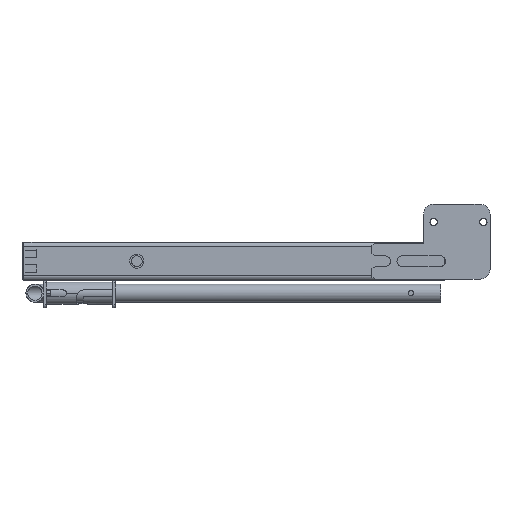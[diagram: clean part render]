
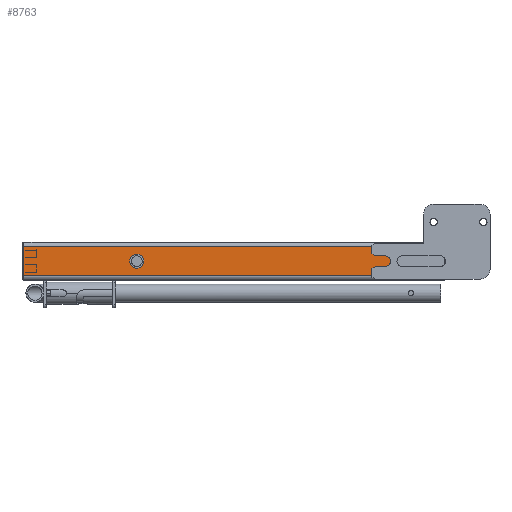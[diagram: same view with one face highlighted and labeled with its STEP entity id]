
A CAD part, left-side view. The second image highlights one B-rep face of the part: STEP entity #8763.
In plain terms, the highlighted planar face has unit normal (-1, 0, 0).
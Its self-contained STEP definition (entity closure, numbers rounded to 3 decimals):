
#6922=DIRECTION('',(0.,1.,0.));
#6923=VECTOR('',#6922,524.5);
#6924=CARTESIAN_POINT('',(-175.,109.5,-22.058));
#6925=LINE('',#6924,#6923);
#7006=DIRECTION('',(0.,0.,1.));
#7007=VECTOR('',#7006,10.921);
#7008=CARTESIAN_POINT('',(-175.,109.5,-22.058));
#7009=LINE('',#7008,#7007);
#7010=DIRECTION('',(0.,0.,-1.));
#7011=VECTOR('',#7010,10.921);
#7012=CARTESIAN_POINT('',(-175.,109.5,22.058));
#7013=LINE('',#7012,#7011);
#7014=DIRECTION('',(0.,-0.866,-0.5));
#7015=VECTOR('',#7014,5.774);
#7016=CARTESIAN_POINT('',(-175.,109.5,11.137));
#7017=LINE('',#7016,#7015);
#7018=DIRECTION('',(0.,-1.,0.));
#7019=VECTOR('',#7018,14.5);
#7020=CARTESIAN_POINT('',(-175.,104.5,8.25));
#7021=LINE('',#7020,#7019);
#7022=CARTESIAN_POINT('',(-175.,90.,0.));
#7023=DIRECTION('',(1.,0.,0.));
#7024=DIRECTION('',(0.,0.,1.));
#7025=AXIS2_PLACEMENT_3D('',#7022,#7023,#7024);
#7027=DIRECTION('',(0.,-1.,0.));
#7028=VECTOR('',#7027,14.5);
#7029=CARTESIAN_POINT('',(-175.,104.5,-8.25));
#7030=LINE('',#7029,#7028);
#7031=DIRECTION('',(0.,-0.866,0.5));
#7032=VECTOR('',#7031,5.774);
#7033=CARTESIAN_POINT('',(-175.,109.5,-11.137));
#7034=LINE('',#7033,#7032);
#7035=CARTESIAN_POINT('',(-175.,464.,0.));
#7036=DIRECTION('',(-1.,0.,0.));
#7037=DIRECTION('',(0.,-1.,0.));
#7038=AXIS2_PLACEMENT_3D('',#7035,#7036,#7037);
#7040=CARTESIAN_POINT('',(-175.,464.,0.));
#7041=DIRECTION('',(-1.,0.,0.));
#7042=DIRECTION('',(0.,1.,0.));
#7043=AXIS2_PLACEMENT_3D('',#7040,#7041,#7042);
#7054=DIRECTION('',(0.,0.,-1.));
#7055=VECTOR('',#7054,44.116);
#7056=CARTESIAN_POINT('',(-175.,634.,22.058));
#7057=LINE('',#7056,#7055);
#7501=DIRECTION('',(0.,1.,0.));
#7502=VECTOR('',#7501,524.5);
#7503=CARTESIAN_POINT('',(-175.,109.5,22.058));
#7504=LINE('',#7503,#7502);
#8080=CARTESIAN_POINT('',(-175.,634.,22.058));
#8081=CARTESIAN_POINT('',(-175.,634.,-22.058));
#8082=VERTEX_POINT('',#8080);
#8083=VERTEX_POINT('',#8081);
#8120=CARTESIAN_POINT('',(-175.,453.35,0.));
#8121=CARTESIAN_POINT('',(-175.,474.65,0.));
#8122=VERTEX_POINT('',#8120);
#8123=VERTEX_POINT('',#8121);
#8208=CARTESIAN_POINT('',(-175.,109.5,-22.058));
#8209=CARTESIAN_POINT('',(-175.,109.5,-11.137));
#8210=VERTEX_POINT('',#8208);
#8211=VERTEX_POINT('',#8209);
#8224=CARTESIAN_POINT('',(-175.,104.5,8.25));
#8225=CARTESIAN_POINT('',(-175.,90.,8.25));
#8226=VERTEX_POINT('',#8224);
#8227=VERTEX_POINT('',#8225);
#8228=CARTESIAN_POINT('',(-175.,90.,-8.25));
#8229=VERTEX_POINT('',#8228);
#8230=CARTESIAN_POINT('',(-175.,104.5,-8.25));
#8231=VERTEX_POINT('',#8230);
#8232=CARTESIAN_POINT('',(-175.,109.5,22.058));
#8233=CARTESIAN_POINT('',(-175.,109.5,11.137));
#8234=VERTEX_POINT('',#8232);
#8235=VERTEX_POINT('',#8233);
#8732=CARTESIAN_POINT('',(-175.,0.,28.5));
#8733=DIRECTION('',(-1.,0.,0.));
#8734=DIRECTION('',(0.,0.,-1.));
#8735=AXIS2_PLACEMENT_3D('',#8732,#8733,#8734);
#8736=PLANE('',#8735);
#8737=ORIENTED_EDGE('',*,*,#8713,.F.);
#8738=ORIENTED_EDGE('',*,*,#8643,.T.);
#8740=ORIENTED_EDGE('',*,*,#8739,.F.);
#8742=ORIENTED_EDGE('',*,*,#8741,.F.);
#8744=ORIENTED_EDGE('',*,*,#8743,.T.);
#8746=ORIENTED_EDGE('',*,*,#8745,.T.);
#8748=ORIENTED_EDGE('',*,*,#8747,.T.);
#8750=ORIENTED_EDGE('',*,*,#8749,.T.);
#8752=ORIENTED_EDGE('',*,*,#8751,.F.);
#8754=ORIENTED_EDGE('',*,*,#8753,.F.);
#8755=EDGE_LOOP('',(#8737,#8738,#8740,#8742,#8744,#8746,#8748,#8750,#8752,
#8754));
#8756=FACE_OUTER_BOUND('',#8755,.F.);
#8758=ORIENTED_EDGE('',*,*,#8757,.T.);
#8760=ORIENTED_EDGE('',*,*,#8759,.T.);
#8761=EDGE_LOOP('',(#8758,#8760));
#8762=FACE_BOUND('',#8761,.F.);
#7026=CIRCLE('',#7025,8.25);
#7039=CIRCLE('',#7038,10.65);
#7044=CIRCLE('',#7043,10.65);
#8643=EDGE_CURVE('',#8210,#8083,#6925,.T.);
#8713=EDGE_CURVE('',#8210,#8211,#7009,.T.);
#8739=EDGE_CURVE('',#8082,#8083,#7057,.T.);
#8741=EDGE_CURVE('',#8234,#8082,#7504,.T.);
#8743=EDGE_CURVE('',#8234,#8235,#7013,.T.);
#8745=EDGE_CURVE('',#8235,#8226,#7017,.T.);
#8747=EDGE_CURVE('',#8226,#8227,#7021,.T.);
#8749=EDGE_CURVE('',#8227,#8229,#7026,.T.);
#8751=EDGE_CURVE('',#8231,#8229,#7030,.T.);
#8753=EDGE_CURVE('',#8211,#8231,#7034,.T.);
#8757=EDGE_CURVE('',#8122,#8123,#7039,.T.);
#8759=EDGE_CURVE('',#8123,#8122,#7044,.T.);
#8763=ADVANCED_FACE('',(#8756,#8762),#8736,.T.);
